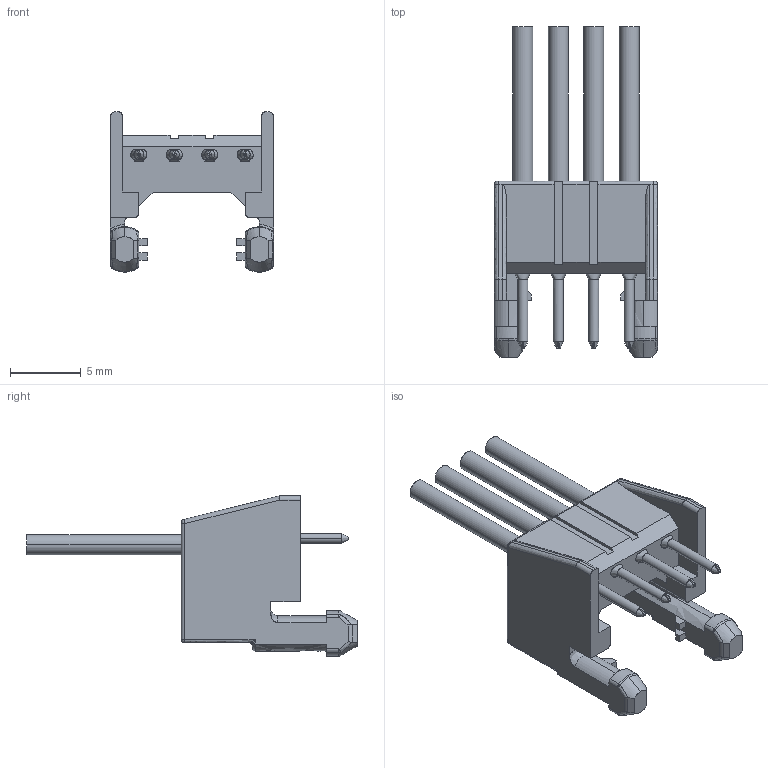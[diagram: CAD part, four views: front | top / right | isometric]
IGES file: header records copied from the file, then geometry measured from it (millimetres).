
Start section: SolidWorks IGES file using analytic representation for surfaces
Global section: file name: C:\Users\08932\Desktop\IGESƒ‚ƒfƒ‹\V0132-004A-01.IGS; native system: SolidWorks 2022; preprocessor: SolidWorks 2022; author: 08932; date: 240710.185137; units: millimetre
Bounding box: 11.5 x 23.3 x 11.3 mm (x, y, z)
Surface area: 890.8 mm2 (no closed solid volume)
Topology: 0 solids, 0 shells, 297 faces, 2254 edges, 2246 vertices
Faces by surface type: bspline 197, revolution 100
